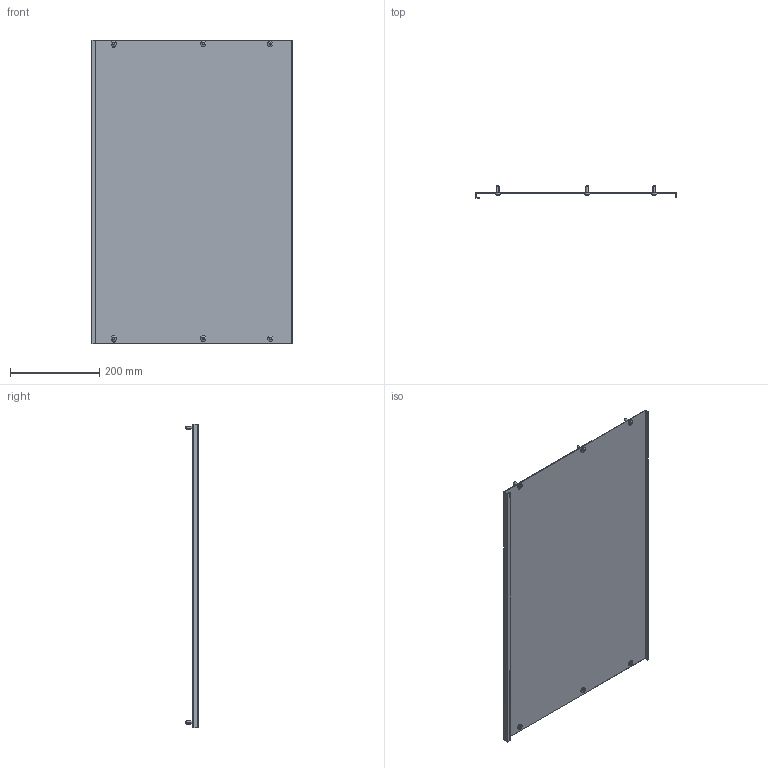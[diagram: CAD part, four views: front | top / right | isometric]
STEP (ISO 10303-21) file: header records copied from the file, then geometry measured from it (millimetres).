
FILE_DESCRIPTION (( 'STEP AP214' ), '1' );
FILE_NAME ('FO-00-PVS-045-080 Ïëàñòðîí ãëóõîé âíóòðåííèé 450õ800.STEP', '2025-09-30T07:43:04', ( '' ), ( '' ), 'SwSTEP 2.0', 'SolidWorks 2023', '' );
FILE_SCHEMA (( 'AUTOMOTIVE_DESIGN' ));
Length unit declared in the file: millimetre
Products named in the file (3): Винт M6x16 045 IEK; FO-00-PVS-045-080 Пластрон глухой внутренний 450х800
Assembly tree (3 placements, depth 2):
  FO-00-PVS-045-080 Пластрон глухой внутренний 450х800
    FO-00-PVS-045-080 Пластрон глухой внутренний 450х800
    Винт M6x16 045 IEK  x2
Bounding box: 448 x 27 x 679 mm (x, y, z)
Volume: 486993.8 mm3; surface area: 650680.7 mm2
Topology: 7 solids, 7 shells, 214 faces, 558 edges, 364 vertices
Faces by surface type: cylinder 132, plane 52, cone 18, bspline 12
Entity records: 4464 total; most frequent: CARTESIAN_POINT 1022, ORIENTED_EDGE 708, DIRECTION 692, EDGE_CURVE 354, AXIS2_PLACEMENT_3D 256, VERTEX_POINT 232, VECTOR 180, LINE 180
